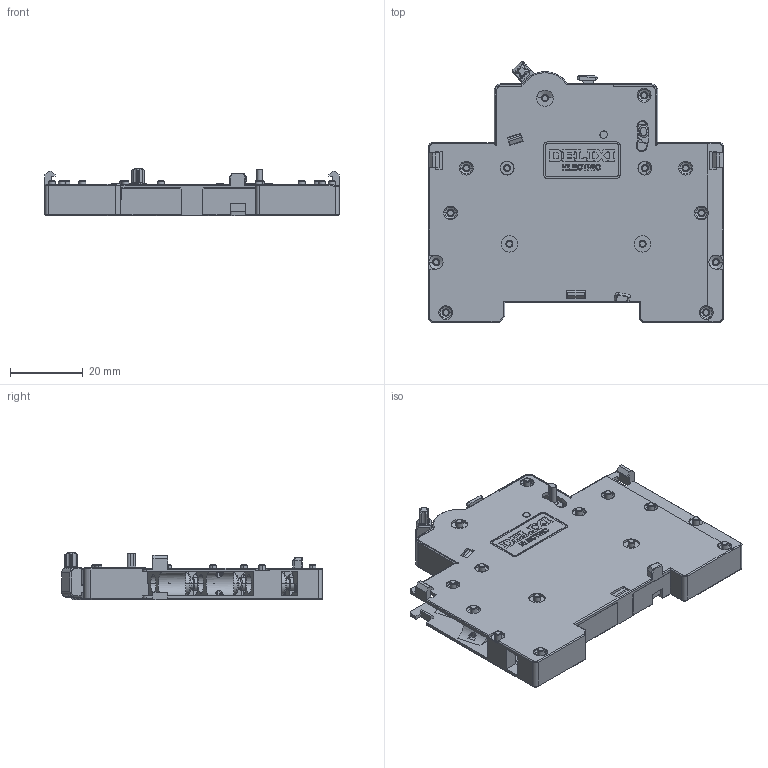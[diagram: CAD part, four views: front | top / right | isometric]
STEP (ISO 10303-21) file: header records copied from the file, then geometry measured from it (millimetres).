
FILE_DESCRIPTION((''),'2;1');
FILE_NAME('2297006900_SW0001','2023-11-08T',('dufeng.zhai'),(''),'PRO/ENGINEER BY PARAMETRIC TECHNOLOGY CORPORATION, 2015440','PRO/ENGINEER BY PARAMETRIC TECHNOLOGY CORPORATION, 2015440','');
FILE_SCHEMA(('CONFIG_CONTROL_DESIGN'));
Products named in the file (1): 2297006900_SW0001
Bounding box: 80.8 x 71.53 x 12.95 mm (x, y, z)
Volume: 29277.5 mm3; surface area: 23429.9 mm2
Topology: 1 solids, 1 shells, 2269 faces, 6264 edges, 4023 vertices
Faces by surface type: plane 1499, cylinder 458, cone 140, torus 96, extrusion 43, bspline 31, sphere 2
Entity records: 75644 total; most frequent: CARTESIAN_POINT 18287, ORIENTED_EDGE 12522, DIRECTION 11112, EDGE_CURVE 6261, VECTOR 4488, LINE 4445, VERTEX_POINT 4023, AXIS2_PLACEMENT_3D 3312
